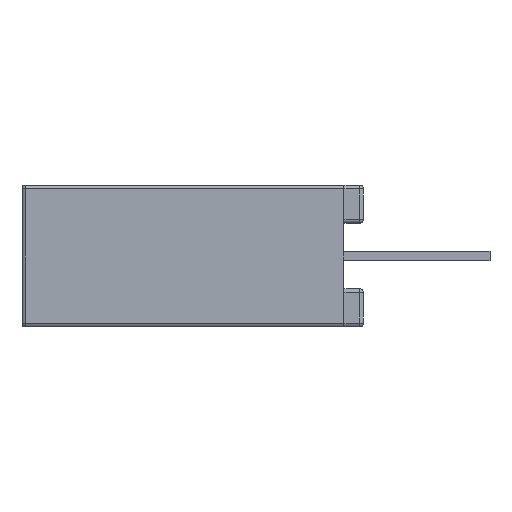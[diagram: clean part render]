
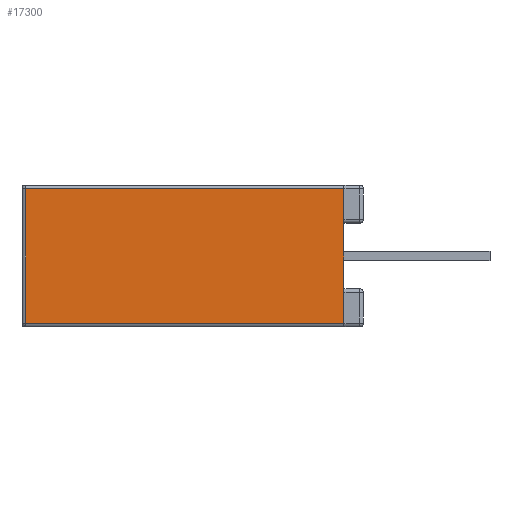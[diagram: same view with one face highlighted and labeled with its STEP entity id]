
A CAD part, left-side view. The second image highlights one B-rep face of the part: STEP entity #17300.
In plain terms, the highlighted planar face has unit normal (-1, 0, 0).
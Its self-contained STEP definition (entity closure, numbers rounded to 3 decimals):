
#17242 = VERTEX_POINT ( 'NONE', #48765 ) ;
#17281 = EDGE_CURVE ( 'NONE', #17282, #17242, #48914, .T. ) ;
#17282 = VERTEX_POINT ( 'NONE', #48910 ) ;
#17300 = ADVANCED_FACE ( 'NONE', ( #48941 ), #48940, .T. ) ;
#17301 = EDGE_LOOP ( 'NONE', ( #17302, #17303, #17332, #17335 ) ) ;
#17302 = ORIENTED_EDGE ( 'NONE', *, *, #17281, .T. ) ;
#17303 = ORIENTED_EDGE ( 'NONE', *, *, #17304, .T. ) ;
#17304 = EDGE_CURVE ( 'NONE', #17242, #17305, #48938, .T. ) ;
#17305 = VERTEX_POINT ( 'NONE', #48928 ) ;
#17332 = ORIENTED_EDGE ( 'NONE', *, *, #17333, .T. ) ;
#17333 = EDGE_CURVE ( 'NONE', #17305, #17334, #49016, .T. ) ;
#17334 = VERTEX_POINT ( 'NONE', #49012 ) ;
#17335 = ORIENTED_EDGE ( 'NONE', *, *, #17336, .T. ) ;
#17336 = EDGE_CURVE ( 'NONE', #17334, #17282, #49011, .T. ) ;
#48765 = CARTESIAN_POINT ( 'NONE',  ( -10., 0., 1.75 ) ) ;
#48910 = CARTESIAN_POINT ( 'NONE',  ( -10., 0., -1.75 ) ) ;
#48911 = DIRECTION ( 'NONE',  ( 0., 0., 1. ) ) ;
#48912 = VECTOR ( 'NONE', #48911, 1000. ) ;
#48913 = CARTESIAN_POINT ( 'NONE',  ( -10., 0., -1.85 ) ) ;
#48914 = LINE ( 'NONE', #48913, #48912 ) ;
#48928 = CARTESIAN_POINT ( 'NONE',  ( -10., 8.292, 1.75 ) ) ;
#48932 = DIRECTION ( 'NONE',  ( 0., 1., 0. ) ) ;
#48933 = VECTOR ( 'NONE', #48932, 1000. ) ;
#48934 = CARTESIAN_POINT ( 'NONE',  ( -10., 8.392, 1.75 ) ) ;
#48935 = DIRECTION ( 'NONE',  ( 0., 0., 1. ) ) ;
#48936 = DIRECTION ( 'NONE',  ( -1., 0., 0. ) ) ;
#48937 = CARTESIAN_POINT ( 'NONE',  ( -10., 0., -1.85 ) ) ;
#48938 = LINE ( 'NONE', #48934, #48933 ) ;
#48939 = AXIS2_PLACEMENT_3D ( 'NONE', #48937, #48936, #48935 ) ;
#48940 = PLANE ( 'NONE',  #48939 ) ;
#48941 = FACE_OUTER_BOUND ( 'NONE', #17301, .T. ) ;
#49008 = DIRECTION ( 'NONE',  ( 0., -1., 0. ) ) ;
#49009 = VECTOR ( 'NONE', #49008, 1000. ) ;
#49010 = CARTESIAN_POINT ( 'NONE',  ( -10., 0., -1.75 ) ) ;
#49011 = LINE ( 'NONE', #49010, #49009 ) ;
#49012 = CARTESIAN_POINT ( 'NONE',  ( -10., 8.292, -1.75 ) ) ;
#49013 = DIRECTION ( 'NONE',  ( 0., 0., -1. ) ) ;
#49014 = VECTOR ( 'NONE', #49013, 1000. ) ;
#49015 = CARTESIAN_POINT ( 'NONE',  ( -10., 8.292, -1.85 ) ) ;
#49016 = LINE ( 'NONE', #49015, #49014 ) ;
